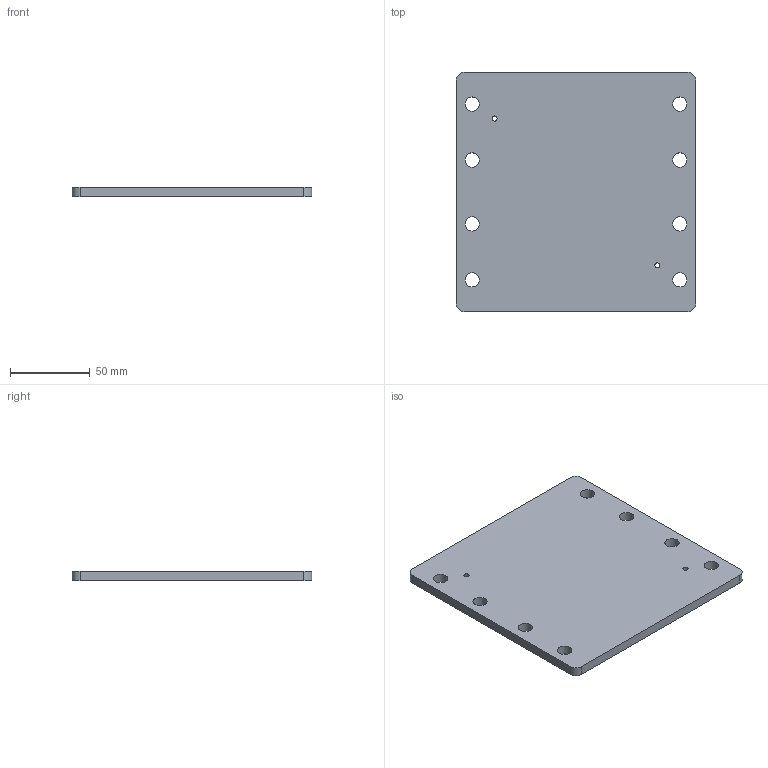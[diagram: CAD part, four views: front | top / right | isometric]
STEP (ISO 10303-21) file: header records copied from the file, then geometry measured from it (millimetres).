
FILE_DESCRIPTION(('FreeCAD Model'),'2;1');
FILE_NAME('Open CASCADE Shape Model','2026-10-30T14:44:39',('FreeCAD'),( 'FreeCAD'),'Open CASCADE STEP processor 7.8','FreeCAD','Unknown');
FILE_SCHEMA(('AUTOMOTIVE_DESIGN { 1 0 10303 214 1 1 1 1 }'));
Length unit declared in the file: millimetre
Products named in the file (1): Open CASCADE STEP translator 7.8 7
Bounding box: 150 x 150 x 6 mm (x, y, z)
Volume: 131307.2 mm3; surface area: 49227.4 mm2
Topology: 1 solids, 1 shells, 32 faces, 72 edges, 48 vertices
Faces by surface type: cylinder 20, plane 12
Full cylindrical faces by diameter (mm): 3.2 x2, 8 x2, 9 x8, 11.8 x2, 16.2 x2
Entity records: 966 total; most frequent: DIRECTION 178, CARTESIAN_POINT 153, ORIENTED_EDGE 144, AXIS2_PLACEMENT_3D 73, EDGE_CURVE 72, FACE_BOUND 58, EDGE_LOOP 58, VERTEX_POINT 48
